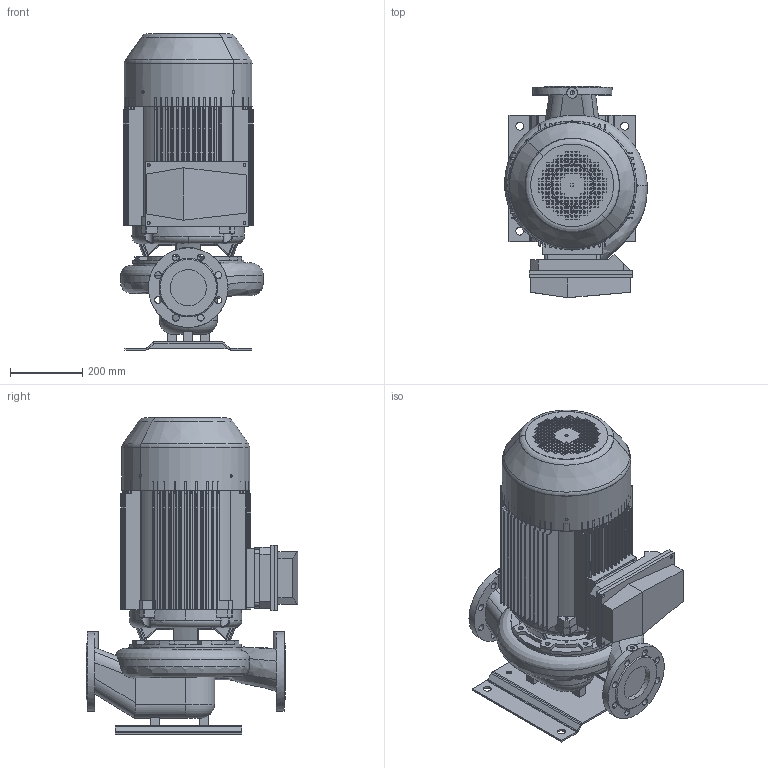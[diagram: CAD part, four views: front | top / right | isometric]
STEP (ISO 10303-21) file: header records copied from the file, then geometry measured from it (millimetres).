
FILE_DESCRIPTION(('STEP AP214'),'1');
FILE_NAME('export.stp','2018-05-28T09:55:46',(' '),(' '),'Spatial InterOp 3D',' ',' ');
FILE_SCHEMA(('AUTOMOTIVE_DESIGN { 1 0 10303 214 1 1 1 1 }'));
Length unit declared in the file: millimetre
Products named in the file (13): W_AKN1002220KP186; V_TLAKN100127; V_PPAKN100; P100496; P100495; P100342; V_MKP186-J1_N26; R200079; R200119; R200132; R200138; R200137; R200136
Assembly tree (13 placements, depth 3):
  W_AKN1002220KP186
    V_TLAKN100127
    V_PPAKN100
    P100496
      P100495  x2
      P100342
    V_MKP186-J1_N26
      R200079
      R200119
      R200132
      R200138
      R200137
      R200136
Bounding box: 395.26 x 585 x 874 mm (x, y, z)
Volume: 31032921.3 mm3; surface area: 4231959.8 mm2
Topology: 11 solids, 11 shells, 2281 faces, 6696 edges, 4436 vertices
Faces by surface type: plane 1276, cylinder 824, bspline 81, cone 50, torus 50
Entity records: 120003 total; most frequent: CARTESIAN_POINT 22790, ORIENTED_EDGE 13348, DIRECTION 12591, EDGE_CURVE 6674, STYLED_ITEM 5536, PRESENTATION_STYLE_ASSIGNMENT 5536, COLOUR_RGB 5536, VERTEX_POINT 4428
